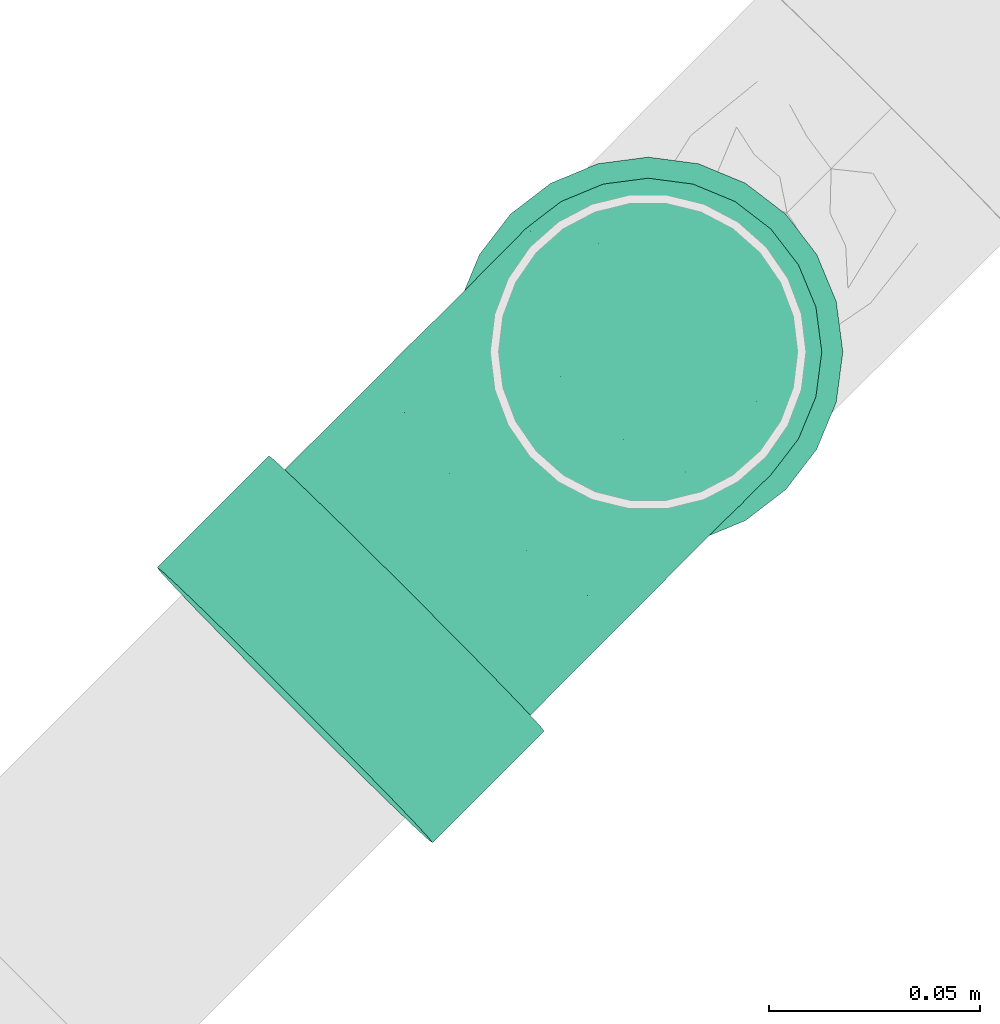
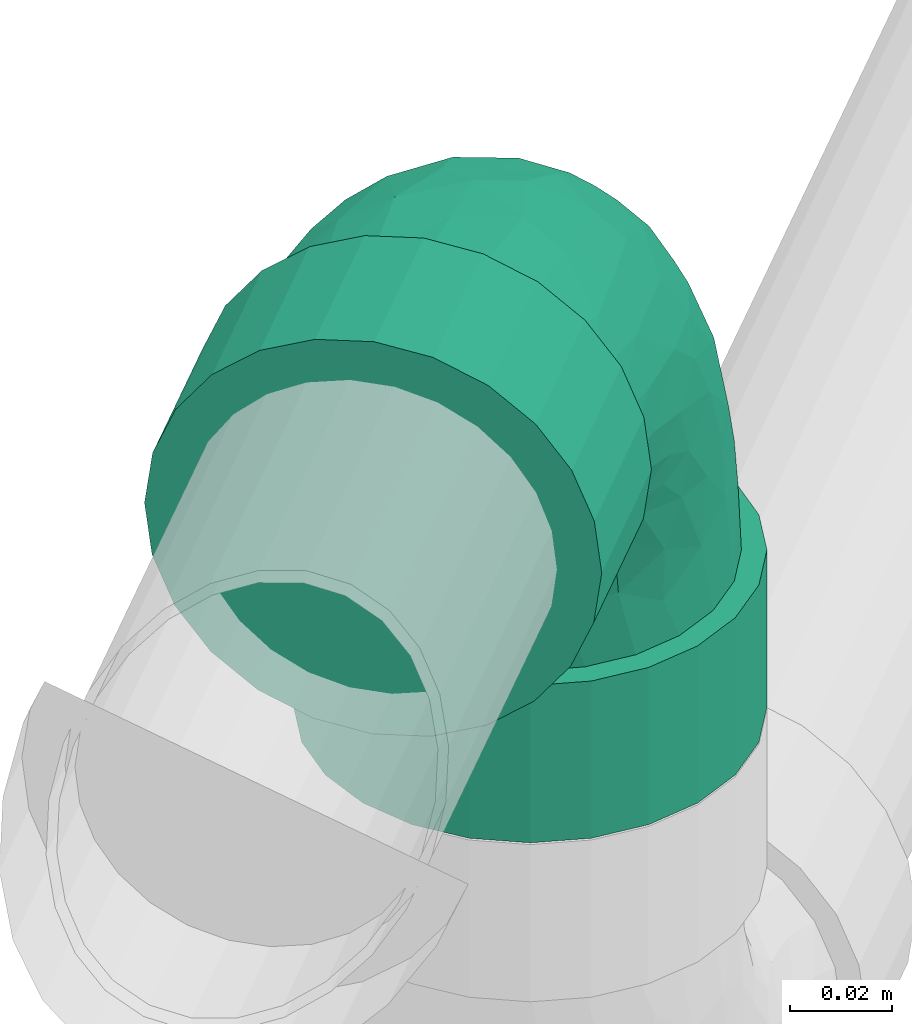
# One storey, part 56 of 83: 1 flow fitting.
"""IFC2X3 building model written with IfcOpenShell, lengths in millimetres."""

from ifc_helpers import new_model, entity, si_unit, converted_unit, derived_unit, direction, frame, origin_with_axes, place, context, subcontext, project, spatial, open_shell, surface_model, source, transform, mapped, type_object, element, save


model = new_model("IFC2X3")

# Units and contexts
model_context = context("Model", 3, precision=0.01, world=frame((0.0, 4.29681676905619e-09, 0.0)), true_north=direction((4.01073788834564e-13, 1.0)))
plan_context = context("Plan", 3, precision=0.01, world=frame((0.0, 4.29681676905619e-09, 0.0)), true_north=direction((4.01073788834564e-13, 1.0)))
body_context = subcontext(model_context, "Body", "Model", "MODEL_VIEW")
ifc_project = project(units=[converted_unit("PLANEANGLEUNIT", "DEGREE", entity("IfcPositiveLengthMeasure", 0.0174532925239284), si_unit("PLANEANGLEUNIT", "RADIAN"), dimensions=[0, 0, 0, 0, 0, 0, 0]), si_unit("AREAUNIT", "SQUARE_METRE"), si_unit("LENGTHUNIT", "METRE", prefix="MILLI"), si_unit("MASSUNIT", "GRAM", prefix="KILO"), si_unit("POWERUNIT", "WATT"), si_unit("PRESSUREUNIT", "PASCAL"), si_unit("FORCEUNIT", "NEWTON", prefix="KILO"), si_unit("ELECTRICVOLTAGEUNIT", "VOLT"), si_unit("ELECTRICCURRENTUNIT", "AMPERE"), si_unit("THERMODYNAMICTEMPERATUREUNIT", "DEGREE_CELSIUS"), si_unit("TIMEUNIT", "SECOND"), si_unit("VOLUMEUNIT", "CUBIC_METRE"), derived_unit("LINEARVELOCITYUNIT", [(si_unit("LENGTHUNIT", "METRE"), 1), (si_unit("TIMEUNIT", "SECOND"), -1)]), derived_unit("VOLUMETRICFLOWRATEUNIT", [(si_unit("VOLUMEUNIT", "CUBIC_METRE"), 1), (si_unit("TIMEUNIT", "SECOND"), -1)]), derived_unit("THERMALTRANSMITTANCEUNIT", [(si_unit("POWERUNIT", "WATT"), 1), (si_unit("THERMODYNAMICTEMPERATUREUNIT", "KELVIN"), -1), (si_unit("AREAUNIT", "SQUARE_METRE"), -1)]), derived_unit("SOUNDPRESSUREUNIT", [(si_unit("PRESSUREUNIT", "PASCAL"), 1)])], contexts=[model_context, plan_context])

# Site, building, storey
site_placement = place(None, frame((0.0, -4.29681676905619e-09, 0.0), z_axis=(0.0, 0.0, 1.0), x_axis=(1.0, 0.0, 0.0)))
site = spatial("IfcSite", under=ifc_project, at=site_placement, Name="ENGM", CompositionType="ELEMENT")
building_placement = place(site_placement, frame((0.0, 4.29681676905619e-09, 0.0), z_axis=(0.0, 0.0, 1.0), x_axis=(1.0, 0.0, 0.0)))
building = spatial("IfcBuilding", under=site, at=building_placement, Name="TI", CompositionType="ELEMENT")
storey_placement = place(building_placement, frame((0.0, 0.0, 204000.0), z_axis=(0.0, 0.0, 1.0), x_axis=(1.0, 0.0, 0.0)))
storey = spatial("IfcBuildingStorey", under=building, at=storey_placement, Name="Nivå D", CompositionType="ELEMENT", Elevation=204000.0)

# Flow fitting
pipe_fitting_type = type_object("IfcPipeFittingType", Name="magi_sewer_bend_001", PredefinedType="BEND")
shared_shape = source(origin_with_axes(), body_context, "Body", "SurfaceModel", [
    surface_model("IfcShellBasedSurfaceModel", [(-118.6395, -44.67407, -11.97038), (-118.6395, -11.97038, -44.67407), (-118.6395, -23.125, -40.05367), (-118.6395, -32.70369, -32.70369), (-118.6395, 44.67407, -11.97038), (-118.6395, -40.05367, -23.125), (-118.6395, -32.70369, 32.70369), (-118.6395, 11.97038, -44.67407), (-118.6395, 0.0, -46.25), (-118.6395, 23.125, -40.05367), (-118.6395, 32.70369, -32.70369), (-118.6395, 40.05367, -23.125), (-118.6395, -46.25, 0.0), (-118.6395, -44.67407, 11.97038), (-118.6395, -40.05367, 23.125), (-118.6395, 0.0, 46.25), (-118.6395, -23.125, 40.05367), (-118.6395, -11.97038, 44.67407), (-118.6395, 32.70369, 32.70369), (-118.6395, 44.67407, 11.97038), (-118.6395, 46.25, 0.0), (-118.6395, 40.05367, 23.125), (-118.6395, 11.97038, 44.67407), (-118.6395, 23.125, 40.05367), (-81.1395, 0.0, 46.25), (-81.1395, -11.97038, 44.67407), (-81.1395, -23.125, 40.05367), (-81.1395, -32.70369, 32.70369), (-81.1395, -40.05367, 23.125), (-81.1395, -44.67407, 11.97038), (-81.1395, 32.70369, 32.70369), (-81.1395, -44.67407, -11.97038), (-81.1395, 11.97038, 44.67407), (-81.1395, 23.125, 40.05367), (-81.1395, 44.67407, 11.97038), (-81.1395, 44.67407, -11.97038), (-81.1395, 46.25, 0.0), (-81.1395, 40.05367, 23.125), (-81.1395, -32.70369, -32.70369), (-81.1395, -40.05367, -23.125), (-81.1395, -23.125, -40.05367), (-81.1395, -11.97038, -44.67407), (-81.1395, 11.97038, -44.67407), (-81.1395, 32.70369, -32.70369), (-81.1395, 40.05367, -23.125), (-81.1395, 23.125, -40.05367), (-81.1395, 0.0, -46.25), (-81.1395, -46.25, 0.0), (-38.07553, 119.28907, 23.125), (-42.69528, 119.36589, -11.97038), (-42.69528, 119.36589, 11.97038), (-21.14919, 119.00759, 40.05367), (-30.72656, 119.16685, 32.70369), (-9.99611, 118.82213, 44.67407), (1.97261, 118.62309, 46.25), (-30.72656, 119.16685, -32.70369), (-38.07553, 119.28907, -23.125), (-44.27099, 119.39209, 0.0), (-9.99611, 118.82213, -44.67407), (-21.14919, 119.00759, -40.05367), (34.67178, 118.07933, 32.70369), (13.94134, 118.42406, 44.67407), (25.09442, 118.23859, 40.05367), (25.09442, 118.23859, -40.05367), (46.64051, 117.8803, 11.97038), (48.21622, 117.8541, 0.0), (42.02075, 117.95713, 23.125), (13.94134, 118.42406, -44.67407), (1.97261, 118.62309, -46.25), (34.67178, 118.07933, -32.70369), (46.64051, 117.8803, -11.97038), (42.02075, 117.95713, -23.125), (34.04827, 80.58452, 32.70369), (47.59271, 80.35928, 0.0), (46.01699, 80.38548, 11.97038), (41.39724, 80.4623, 23.125), (24.47091, 80.74378, 40.05367), (13.31783, 80.92924, 44.67407), (24.47091, 80.74378, -40.05367), (-10.61962, 81.3273, 44.67407), (46.01699, 80.38548, -11.97038), (34.04827, 80.58452, -32.70369), (41.39724, 80.4623, -23.125), (13.31783, 80.92924, -44.67407), (-10.61962, 81.3273, -44.67407), (1.3491, 81.12828, -46.25), (-31.35006, 81.67204, 32.70369), (-21.7727, 81.51278, 40.05367), (-38.69904, 81.79424, 23.125), (-43.31879, 81.87107, -11.97038), (-43.31879, 81.87107, 11.97038), (-31.35006, 81.67204, -32.70369), (-21.7727, 81.51278, -40.05367), (-38.69904, 81.79424, -23.125), (-44.8945, 81.89727, 0.0), (1.3491, 81.12828, 46.25), (-81.1395, 10.67629, -39.84444), (-81.1395, 0.0, -41.25), (-81.1395, 35.72355, -20.625), (-81.1395, 20.625, -35.72355), (-81.1395, -10.67629, -39.84444), (-81.1395, 29.16816, -29.16816), (-81.1395, 39.84444, -10.67629), (-81.1395, -29.16816, -29.16816), (-81.1395, -35.72355, -20.625), (-81.1395, -20.625, -35.72355), (-81.1395, -39.84444, -10.67629), (-81.1395, -41.25, 0.0), (-81.1395, -39.84444, 10.67629), (-81.1395, 41.25, 0.0), (-81.1395, 35.72355, 20.625), (-81.1395, 39.84444, 10.67629), (-81.1395, 10.67629, 39.84444), (-81.1395, 20.625, 35.72355), (-81.1395, 29.16816, 29.16816), (-81.1395, 0.0, 41.25), (-81.1395, -35.72355, 20.625), (-81.1395, -29.16816, 29.16816), (-81.1395, -10.67629, 39.84444), (-81.1395, -20.625, 35.72355), (-9.32571, 81.30579, -39.84444), (21.97125, 80.78535, -35.72355), (1.3491, 81.12828, -41.25), (-19.27305, 81.47121, -35.72355), (-39.89519, 81.81414, 0.0), (37.06771, 80.5343, -20.625), (-34.36951, 81.72225, -20.625), (-27.81502, 81.61325, -29.16816), (30.51322, 80.6433, -29.16816), (12.02391, 80.95076, -39.84444), (41.18803, 80.46578, 10.67629), (41.18803, 80.46578, -10.67629), (42.5934, 80.44242, 0.0), (-38.48983, 81.79077, -10.67629), (-38.48983, 81.79077, 10.67629), (-34.36951, 81.72225, 20.625), (21.97125, 80.78535, 35.72355), (-19.27305, 81.47121, 35.72355), (-9.32571, 81.30579, 39.84444), (-27.81502, 81.61325, 29.16816), (1.3491, 81.12828, 41.25), (37.06771, 80.5343, 20.625), (30.51322, 80.6433, 29.16816), (12.02391, 80.95076, 39.84444), (-54.39739, -36.17405, 12.9945), (-59.16491, -32.03481, 23.17607), (-43.29024, -35.31976, 0.0), (-60.84501, -38.07025, 0.0), (23.36894, 18.86353, 10.62351), (15.01118, 9.80087, 15.95151), (11.943, 2.37095, 8.70482), (-61.89095, -5.46813, 40.55328), (-56.5761, 6.31814, 41.17682), (32.38452, 35.45465, 8.39846), (27.14019, 25.7317, 0.0), (-58.98413, -15.54278, 37.1083), (-30.85808, -9.75976, 34.52646), (-40.12661, -0.47453, 40.0052), (-68.73133, -25.45105, 31.89234), (-35.98821, -31.79054, 8.39846), (-26.1794, -26.70859, 0.0), (-6.74533, 6.85843, 33.8355), (-14.04844, -9.839, 26.4677), (-39.19384, 65.31639, 17.88508), (-14.23564, 70.23099, 38.62484), (-4.65529, 60.54097, 41.1461), (-62.27773, 16.19179, 38.95707), (-10.07488, 26.71397, 40.4971), (-19.57014, 7.506, 38.60611), (-3.30505, 21.71093, 37.91015), (-70.2401, 24.97296, 33.58545), (-13.65546, 39.9484, 41.16018), (-29.72969, 30.22818, 40.21475), (-23.93669, 17.70845, 41.06238), (-62.06622, 44.71077, 9.37661), (-64.65569, 40.27444, 17.88508), (26.59032, 68.29866, 31.89234), (-63.24139, 34.37116, 27.04038), (-42.67163, 45.56309, 29.16652), (-51.89255, 44.18749, 22.91434), (-33.40097, 63.50938, 27.07268), (16.52135, 58.71755, 37.1083), (24.38173, 51.08927, 30.65884), (33.01412, 58.62409, 23.17607), (25.61941, 31.60441, 20.54411), (37.07351, 53.7884, 12.9945), (-9.06855, -18.09742, 0.0), (-19.24947, -23.05207, 10.62351), (6.49643, 61.79148, 40.55328), (-44.29313, 17.5094, 40.50756), (-39.59869, 10.04835, 41.23749), (18.24571, 8.76639, 0.0), (39.07666, 60.20361, 0.0), (-43.04113, 27.67455, 38.13022), (-32.02602, -25.09038, 20.54411), (-51.4876, -23.5289, 30.65884), (-29.00463, 52.56952, 34.6482), (-24.07408, 68.29028, 33.76759), (-50.58117, 53.84295, 7.25585), (-60.71281, 46.66269, 0.0), (19.66922, 31.77478, 27.9348), (10.27149, 30.69154, 34.52646), (10.07122, 13.8829, 26.4677), (-45.64677, 61.48027, 0.0), (-41.82348, 67.75033, 7.7871), (-37.43242, 42.98, 33.8493), (-55.83462, 27.89938, 34.68941), (-31.91613, -18.0177, 28.91111), (-22.76837, 42.19883, 39.59479), (-32.08647, 39.39444, 37.49366), (-16.86731, 55.15173, 39.26203), (-50.12691, 50.96741, 15.38796), (1.14165, 40.11317, 40.0052), (-2.41195, -11.81909, 8.5314), (-9.77673, -14.76779, 15.71658), (-2.34635, 2.3857, 28.45066), (3.16447, -3.21753, 16.67928), (36.03467, 42.697, 0.0), (4.58858, -4.66552, 0.0), (-62.94524, 34.45232, -27.07268), (-32.09742, -19.13819, -27.9348), (-30.85808, -9.75977, -34.52645), (-14.04843, -9.839, -26.4677), (-60.4552, 5.66126, -41.1461), (16.52135, 58.71755, -37.1083), (10.27149, 30.69154, -34.52645), (1.14165, 40.11317, -40.0052), (-69.98459, 15.40139, -38.62484), (-23.80162, 70.64562, -33.58545), (-33.3149, 63.80414, -27.04038), (-67.04557, 42.94418, -7.7871), (10.07122, 13.8829, -26.4677), (18.54588, 31.61214, -28.91111), (-64.65569, 40.27444, -17.88508), (11.943, 2.37095, -8.70482), (15.01118, 9.80087, -15.95151), (23.36894, 18.86353, -10.62351), (-38.8555, 32.73704, -37.49366), (-41.81443, 23.46686, -39.59479), (-52.08, 29.87469, -34.6482), (-6.74533, 6.85843, -33.8355), (-26.54276, 10.51766, -40.4971), (-7.17957, 19.69223, -38.60611), (-21.65298, 3.66557, -37.91015), (-67.88056, 25.20621, -33.76759), (-54.39739, -36.17405, -12.9945), (-44.84729, 43.42331, -29.16652), (-59.16491, -32.03481, -23.17607), (-32.02602, -25.09038, -20.54411), (-19.24947, -23.05207, -10.62351), (-35.98821, -31.79054, -8.39846), (-58.98413, -15.54278, -37.1083), (-61.89095, -5.46813, -40.55328), (-54.86365, 17.78198, -39.26203), (-39.71583, 14.31779, -41.16018), (-15.15407, 62.53834, -38.95707), (-5.37657, 56.67333, -41.17682), (-43.67262, 62.80104, -9.37661), (-52.9945, 51.46942, -7.25585), (-26.95508, 43.49531, -38.13022), (-16.77052, 44.57813, -40.50756), (-43.31857, 52.62008, -22.91434), (6.49643, 61.79148, -40.55328), (-2.41195, -11.81909, -8.5314), (37.07351, 53.78841, -12.9945), (33.01412, 58.62409, -23.17607), (-68.73133, -25.45105, -31.89234), (-29.72969, 30.22818, -40.21475), (-17.30801, 24.22782, -41.06238), (26.59032, 68.29866, -31.89234), (-51.4876, -23.5289, -30.65884), (-39.19384, 65.31639, -17.88508), (32.38452, 35.45465, -8.39846), (-42.35167, 38.14187, -33.8493), (-26.96716, 56.29078, -34.68941), (25.61941, 31.60442, -20.54411), (24.38173, 51.08927, -30.65884), (-9.38856, 39.76028, -41.23749), (-50.12691, 50.96741, -15.38796), (-40.12661, -0.47453, -40.0052), (0.23549, -0.23943, -23.99857), (-9.77673, -14.76779, -15.71658), (3.16447, -3.21753, -16.67928)], [open_shell([[[0, 1, 2]], [[0, 2, 3]], [[1, 0, 4]], [[0, 3, 5]], [[6, 4, 0]], [[1, 7, 8]], [[1, 9, 7]], [[10, 4, 11]], [[4, 10, 9]], [[1, 4, 9]], [[0, 12, 13]], [[13, 14, 6]], [[6, 15, 4]], [[16, 17, 15]], [[16, 15, 6]], [[15, 18, 4]], [[4, 19, 20]], [[4, 21, 19]], [[18, 22, 23]], [[4, 18, 21]], [[15, 22, 18]], [[13, 6, 0]], [[24, 25, 26]], [[24, 26, 27]], [[27, 28, 29]], [[24, 27, 30]], [[27, 31, 30]], [[32, 30, 33]], [[32, 24, 30]], [[34, 35, 36]], [[37, 35, 34]], [[37, 30, 35]], [[27, 29, 31]], [[35, 30, 31]], [[38, 31, 39]], [[40, 41, 31]], [[40, 31, 38]], [[42, 31, 41]], [[35, 43, 44]], [[35, 31, 43]], [[43, 42, 45]], [[31, 42, 43]], [[41, 46, 42]], [[31, 29, 47]], [[35, 4, 36]], [[44, 11, 35]], [[9, 43, 45]], [[44, 43, 10]], [[7, 45, 42]], [[35, 11, 4]], [[4, 20, 36]], [[7, 9, 45]], [[10, 43, 9]], [[10, 11, 44]], [[8, 7, 42]], [[42, 46, 8]], [[46, 41, 1]], [[5, 39, 31]], [[39, 3, 38]], [[0, 31, 47]], [[1, 40, 2]], [[40, 1, 41]], [[40, 38, 2]], [[38, 3, 2]], [[39, 5, 3]], [[0, 5, 31]], [[47, 12, 0]], [[46, 1, 8]], [[29, 13, 47]], [[28, 14, 29]], [[16, 27, 26]], [[28, 27, 6]], [[17, 26, 25]], [[29, 14, 13]], [[13, 12, 47]], [[17, 16, 26]], [[6, 27, 16]], [[6, 14, 28]], [[15, 17, 25]], [[25, 24, 15]], [[30, 23, 33]], [[34, 21, 37]], [[30, 37, 18]], [[19, 34, 36]], [[33, 22, 32]], [[33, 23, 22]], [[22, 15, 32]], [[30, 18, 23]], [[37, 21, 18]], [[19, 21, 34]], [[36, 20, 19]], [[32, 15, 24]], [[48, 49, 50]], [[51, 48, 52]], [[49, 48, 53]], [[53, 48, 51]], [[49, 53, 54]], [[49, 55, 56]], [[49, 57, 50]], [[55, 58, 59]], [[58, 55, 49]], [[54, 58, 49]], [[54, 60, 58]], [[61, 62, 60]], [[58, 60, 63]], [[64, 65, 60]], [[64, 60, 66]], [[63, 60, 65]], [[58, 67, 68]], [[63, 67, 58]], [[69, 70, 71]], [[70, 69, 63]], [[65, 70, 63]], [[54, 61, 60]], [[72, 73, 74]], [[72, 74, 75]], [[72, 76, 77]], [[73, 72, 78]], [[72, 79, 78]], [[80, 81, 82]], [[81, 80, 78]], [[83, 84, 85]], [[78, 80, 73]], [[83, 78, 84]], [[72, 77, 79]], [[84, 78, 79]], [[86, 79, 87]], [[79, 88, 89]], [[88, 79, 86]], [[90, 89, 88]], [[84, 91, 92]], [[91, 84, 89]], [[91, 89, 93]], [[84, 79, 89]], [[90, 94, 89]], [[79, 77, 95]], [[84, 58, 85]], [[92, 59, 84]], [[56, 91, 93]], [[92, 91, 55]], [[49, 93, 89]], [[84, 59, 58]], [[58, 68, 85]], [[49, 56, 93]], [[55, 91, 56]], [[55, 59, 92]], [[57, 49, 89]], [[89, 94, 57]], [[94, 90, 50]], [[51, 87, 79]], [[87, 52, 86]], [[53, 79, 95]], [[50, 88, 48]], [[88, 50, 90]], [[88, 86, 48]], [[86, 52, 48]], [[87, 51, 52]], [[53, 51, 79]], [[95, 54, 53]], [[94, 50, 57]], [[77, 61, 95]], [[76, 62, 77]], [[66, 72, 75]], [[76, 72, 60]], [[64, 75, 74]], [[77, 62, 61]], [[61, 54, 95]], [[64, 66, 75]], [[60, 72, 66]], [[60, 62, 76]], [[65, 64, 74]], [[74, 73, 65]], [[81, 71, 82]], [[83, 63, 78]], [[81, 78, 69]], [[67, 83, 85]], [[82, 70, 80]], [[82, 71, 70]], [[70, 65, 80]], [[81, 69, 71]], [[78, 63, 69]], [[67, 63, 83]], [[85, 68, 67]], [[80, 65, 73]], [[96, 97, 98]], [[99, 96, 98]], [[100, 98, 97]], [[101, 99, 98]], [[102, 98, 100]], [[103, 104, 105]], [[100, 105, 104]], [[104, 106, 100]], [[106, 102, 100]], [[107, 108, 106]], [[109, 102, 106]], [[110, 111, 109]], [[108, 110, 106]], [[112, 113, 114]], [[108, 114, 110]], [[114, 115, 112]], [[116, 117, 108]], [[118, 108, 117]], [[119, 118, 117]], [[118, 114, 108]], [[118, 115, 114]], [[109, 106, 110]], [[120, 121, 122]], [[123, 124, 120]], [[124, 125, 120]], [[126, 123, 127]], [[126, 124, 123]], [[121, 125, 128]], [[121, 129, 122]], [[125, 121, 120]], [[125, 130, 131]], [[131, 130, 132]], [[126, 133, 124]], [[124, 134, 135]], [[136, 124, 135]], [[137, 138, 135]], [[137, 135, 139]], [[140, 135, 138]], [[141, 136, 142]], [[141, 130, 124]], [[136, 140, 143]], [[136, 141, 124]], [[140, 136, 135]], [[124, 130, 125]], [[144, 145, 116]], [[146, 144, 147]], [[148, 149, 150]], [[144, 116, 108]], [[108, 147, 144]], [[115, 151, 152]], [[117, 116, 145]], [[153, 148, 154]], [[155, 156, 157]], [[158, 119, 117]], [[155, 119, 158]], [[159, 146, 160]], [[161, 156, 162]], [[163, 135, 134]], [[138, 164, 165]], [[112, 166, 113]], [[167, 168, 169]], [[113, 170, 114]], [[118, 151, 115]], [[171, 172, 173]], [[174, 111, 175]], [[175, 111, 110]], [[176, 142, 136]], [[109, 111, 174]], [[177, 178, 179]], [[180, 163, 178]], [[177, 110, 114]], [[115, 152, 112]], [[181, 182, 176]], [[114, 170, 177]], [[183, 184, 185]], [[180, 135, 163]], [[160, 186, 187]], [[140, 188, 143]], [[160, 187, 159]], [[140, 138, 165]], [[189, 190, 173]], [[185, 130, 141]], [[141, 142, 183]], [[183, 185, 141]], [[148, 191, 154]], [[185, 192, 130]], [[193, 166, 189]], [[145, 194, 195]], [[180, 196, 197]], [[198, 199, 174]], [[200, 201, 202]], [[203, 204, 124]], [[193, 205, 206]], [[163, 134, 204]], [[181, 136, 143]], [[180, 139, 135]], [[162, 156, 207]], [[208, 196, 209]], [[119, 155, 118]], [[197, 137, 139]], [[164, 138, 137]], [[210, 171, 165]], [[182, 181, 201]], [[153, 184, 148]], [[196, 180, 178]], [[166, 112, 152]], [[206, 178, 177]], [[175, 179, 211]], [[210, 208, 171]], [[188, 165, 212]], [[156, 155, 195]], [[151, 155, 157]], [[207, 194, 162]], [[156, 161, 168]], [[188, 181, 143]], [[168, 161, 169]], [[212, 201, 181]], [[201, 161, 202]], [[184, 200, 202]], [[187, 213, 214]], [[194, 145, 144]], [[158, 145, 195]], [[176, 183, 142]], [[184, 183, 182]], [[189, 166, 152]], [[170, 166, 206]], [[193, 209, 205]], [[210, 164, 197]], [[177, 175, 110]], [[174, 175, 211]], [[198, 204, 203]], [[211, 179, 163]], [[214, 194, 187]], [[215, 216, 202]], [[162, 215, 161]], [[149, 216, 150]], [[189, 173, 172]], [[212, 165, 171]], [[168, 173, 157]], [[171, 173, 167]], [[165, 188, 140]], [[181, 188, 212]], [[155, 151, 118]], [[152, 151, 157]], [[108, 107, 147]], [[192, 185, 217]], [[192, 132, 130]], [[213, 187, 186]], [[159, 194, 144]], [[213, 150, 216]], [[185, 153, 217]], [[184, 202, 149]], [[189, 152, 190]], [[193, 189, 172]], [[209, 193, 172]], [[166, 193, 206]], [[208, 209, 172]], [[205, 209, 196]], [[198, 174, 211]], [[174, 199, 109]], [[204, 211, 163]], [[199, 198, 203]], [[204, 198, 211]], [[124, 204, 134]], [[152, 157, 190]], [[157, 173, 190]], [[171, 208, 172]], [[196, 208, 210]], [[177, 179, 175]], [[163, 179, 178]], [[218, 191, 150]], [[214, 213, 216]], [[150, 213, 218]], [[191, 148, 150]], [[213, 186, 218]], [[184, 149, 148]], [[202, 216, 149]], [[216, 162, 214]], [[194, 214, 162]], [[196, 178, 205]], [[206, 205, 178]], [[180, 197, 139]], [[210, 197, 196]], [[156, 168, 157]], [[161, 201, 169]], [[201, 212, 169]], [[167, 169, 212]], [[171, 167, 212]], [[168, 167, 173]], [[194, 159, 187]], [[146, 159, 144]], [[217, 153, 154]], [[184, 153, 185]], [[166, 170, 113]], [[177, 170, 206]], [[197, 164, 137]], [[165, 164, 210]], [[145, 158, 117]], [[155, 158, 195]], [[181, 176, 136]], [[183, 176, 182]], [[156, 195, 207]], [[194, 207, 195]], [[184, 182, 200]], [[201, 200, 182]], [[216, 215, 162]], [[202, 161, 215]], [[98, 219, 101]], [[220, 221, 222]], [[97, 96, 223]], [[224, 225, 226]], [[96, 99, 227]], [[127, 228, 229]], [[199, 230, 109]], [[231, 225, 232]], [[233, 102, 230]], [[234, 235, 236]], [[237, 238, 239]], [[225, 231, 240]], [[241, 242, 243]], [[244, 99, 101]], [[104, 245, 106]], [[121, 224, 129]], [[245, 147, 106]], [[239, 219, 246]], [[245, 104, 247]], [[219, 98, 233]], [[248, 249, 250]], [[219, 233, 246]], [[251, 105, 100]], [[131, 132, 192]], [[252, 100, 97]], [[248, 245, 247]], [[253, 254, 223]], [[255, 120, 256]], [[257, 258, 203]], [[259, 255, 260]], [[124, 133, 257]], [[219, 239, 244]], [[261, 229, 246]], [[122, 262, 256]], [[234, 218, 263]], [[127, 123, 228]], [[255, 123, 120]], [[264, 265, 125]], [[122, 129, 262]], [[98, 102, 233]], [[266, 103, 105]], [[127, 229, 126]], [[254, 267, 268]], [[269, 224, 121]], [[270, 266, 251]], [[257, 133, 271]], [[122, 256, 120]], [[217, 154, 272]], [[128, 125, 265]], [[269, 121, 128]], [[264, 131, 192]], [[270, 251, 221]], [[264, 192, 217]], [[249, 186, 160]], [[154, 191, 236]], [[131, 264, 125]], [[259, 273, 274]], [[96, 227, 223]], [[265, 275, 276]], [[133, 126, 271]], [[260, 277, 268]], [[104, 103, 247]], [[274, 246, 229]], [[271, 261, 278]], [[253, 238, 254]], [[252, 223, 279]], [[252, 251, 100]], [[242, 240, 243]], [[279, 221, 251]], [[221, 240, 222]], [[225, 224, 276]], [[262, 224, 226]], [[232, 275, 231]], [[225, 240, 242]], [[250, 249, 160]], [[248, 220, 222]], [[266, 247, 103]], [[248, 247, 270]], [[275, 265, 264]], [[269, 265, 276]], [[260, 255, 256]], [[228, 255, 274]], [[259, 237, 273]], [[253, 227, 244]], [[229, 271, 126]], [[257, 271, 278]], [[258, 230, 199]], [[278, 261, 233]], [[280, 240, 231]], [[281, 282, 263]], [[235, 275, 236]], [[280, 282, 281]], [[260, 268, 267]], [[279, 223, 254]], [[242, 268, 226]], [[254, 268, 241]], [[223, 252, 97]], [[251, 252, 279]], [[224, 262, 129]], [[256, 262, 226]], [[147, 245, 146]], [[147, 107, 106]], [[249, 263, 186]], [[245, 250, 146]], [[248, 222, 281]], [[154, 236, 272]], [[234, 263, 282]], [[272, 275, 264]], [[260, 256, 277]], [[259, 260, 267]], [[237, 259, 267]], [[255, 259, 274]], [[238, 237, 267]], [[273, 237, 239]], [[258, 257, 278]], [[257, 203, 124]], [[230, 278, 233]], [[203, 258, 199]], [[230, 258, 278]], [[109, 230, 102]], [[256, 226, 277]], [[226, 268, 277]], [[254, 238, 267]], [[239, 238, 253]], [[229, 261, 271]], [[233, 261, 246]], [[281, 263, 249]], [[235, 234, 282]], [[236, 191, 234]], [[280, 235, 282]], [[218, 234, 191]], [[218, 186, 263]], [[275, 235, 231]], [[248, 281, 249]], [[280, 281, 222]], [[239, 246, 273]], [[274, 273, 246]], [[219, 244, 101]], [[253, 244, 239]], [[225, 242, 226]], [[240, 221, 243]], [[221, 279, 243]], [[241, 243, 279]], [[254, 241, 279]], [[242, 241, 268]], [[146, 250, 160]], [[248, 250, 245]], [[275, 272, 236]], [[217, 272, 264]], [[255, 228, 123]], [[229, 228, 274]], [[244, 227, 99]], [[223, 227, 253]], [[251, 266, 105]], [[247, 266, 270]], [[265, 269, 128]], [[224, 269, 276]], [[248, 270, 220]], [[221, 220, 270]], [[225, 276, 232]], [[275, 232, 276]], [[240, 280, 222]], [[235, 280, 231]]])]),
])
flow_fitting_placement = place(storey_placement, frame((601739.62406, 693673.12319, 6296.86835), z_axis=(-0.707106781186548, 0.707106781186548, 0.0), x_axis=(0.707009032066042, 0.707009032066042, -0.0166270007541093)))
element("IfcFlowFitting", 1, at=flow_fitting_placement, inside=storey, type_object=pipe_fitting_type, Name="magi_sewer_bend_001", context=body_context, shape_type="MappedRepresentation", body=[
    mapped(shared_shape, transform((0.0, 0.0, 0.0), scale=1.0)),
])

save(model, "model.ifc")
